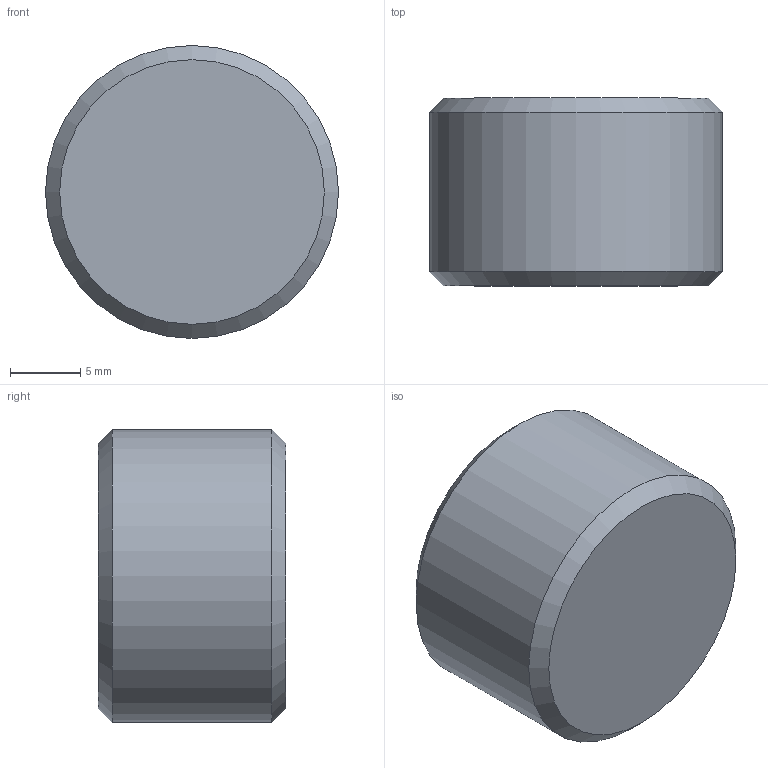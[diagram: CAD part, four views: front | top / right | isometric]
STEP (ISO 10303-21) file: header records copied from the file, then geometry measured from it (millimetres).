
FILE_DESCRIPTION(/* description */ (''),/* implementation_level */ '2;1');
FILE_NAME(/* name */ 'C:/Users/drich/Desktop/SF-12 v2.step',/* time_stamp */ '2020-01-08T20:59:10-06:00',/* author */ (''),/* organization */ (''),/* preprocessor_version */ 'ST-DEVELOPER v18',/* originating_system */ 'Autodesk Translation Framework v8.12.0.6',/* authorisation */ '');
FILE_SCHEMA (('AUTOMOTIVE_DESIGN { 1 0 10303 214 3 1 1 }'));
Length unit declared in the file: inch
Products named in the file (1): SF-12
Bounding box: 20.81 x 13.34 x 20.81 mm (x, y, z)
Volume: 3780.3 mm3; surface area: 1747.9 mm2
Topology: 1 solids, 1 shells, 13 faces, 35 edges, 25 vertices
Faces by surface type: plane 9, cone 3, cylinder 1
Full cylindrical faces by diameter (mm): 20.813 x1
Entity records: 439 total; most frequent: CARTESIAN_POINT 98, ORIENTED_EDGE 70, DIRECTION 58, EDGE_CURVE 35, VERTEX_POINT 25, AXIS2_PLACEMENT_3D 21, LINE 16, VECTOR 16
